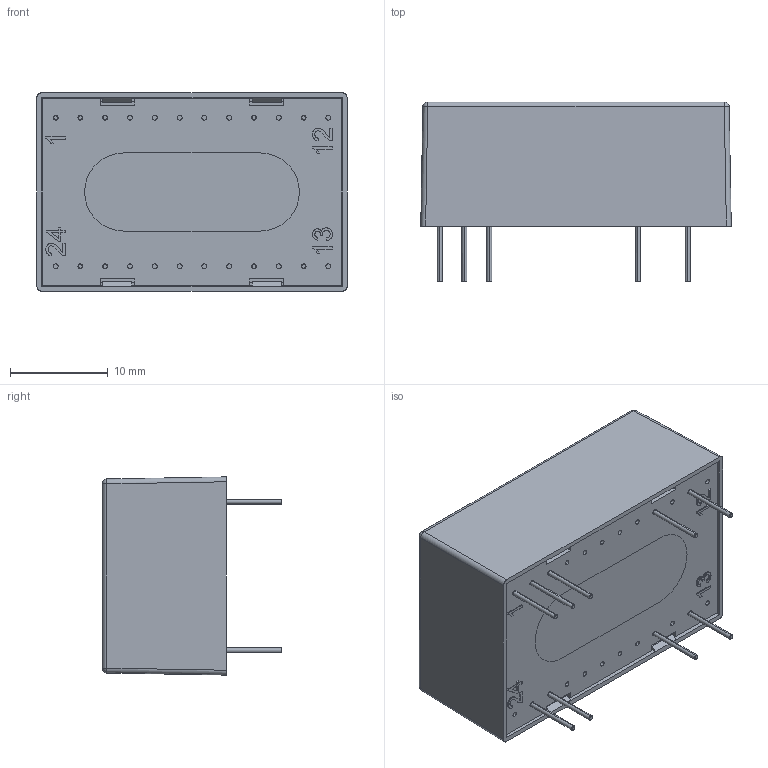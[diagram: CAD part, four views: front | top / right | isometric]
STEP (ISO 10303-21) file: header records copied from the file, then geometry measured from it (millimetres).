
FILE_DESCRIPTION (( 'STEP AP214' ), '1' );
FILE_NAME ('RDDW10組合圖-1060105.STEP', '2020-05-21T02:48:52', ( '' ), ( '' ), 'SwSTEP 2.0', 'SolidWorks 2017', '' );
FILE_SCHEMA (( 'AUTOMOTIVE_DESIGN' ));
Length unit declared in the file: millimetre
Products named in the file (6): RDDW10組合圖-1060105; RDDW10 BASE-1060105; RDDW10 BASE+PIN-1060105; RDDW10 PIN-1060105; RDDW10 CASE-1060105; RDDW10 RUB-1060105
Assembly tree (13 placements, depth 3):
  RDDW10組合圖-1060105
    RDDW10 BASE+PIN-1060105
      RDDW10 BASE-1060105
      RDDW10 PIN-1060105  x9
    RDDW10 CASE-1060105
    RDDW10 RUB-1060105
Bounding box: 31.8 x 18.4 x 20.3 mm (x, y, z)
Volume: 1872.6 mm3; surface area: 5336.2 mm2
Topology: 12 solids, 12 shells, 1015 faces, 2644 edges, 1674 vertices
Faces by surface type: plane 533, cylinder 372, bspline 88, cone 18, sphere 4
Entity records: 22042 total; most frequent: CARTESIAN_POINT 9066, ORIENTED_EDGE 2768, DIRECTION 2402, EDGE_CURVE 1384, VERTEX_POINT 906, LINE 878, VECTOR 878, AXIS2_PLACEMENT_3D 762
